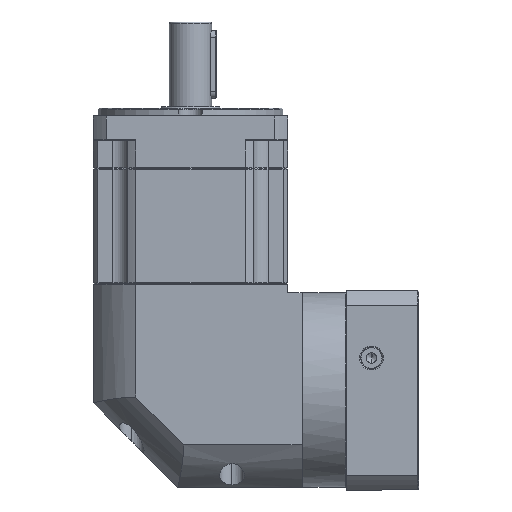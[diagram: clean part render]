
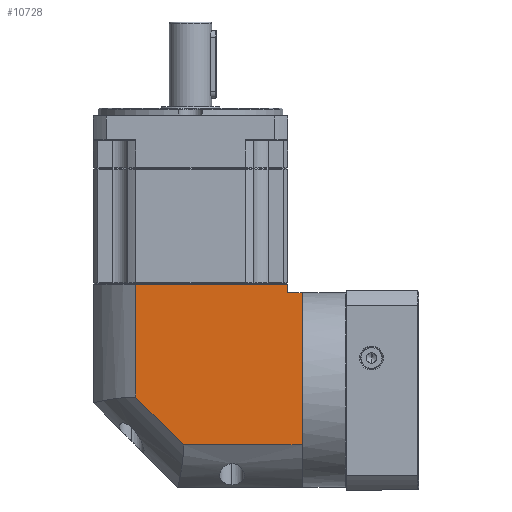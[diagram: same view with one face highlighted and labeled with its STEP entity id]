
A CAD part, left-side view. The second image highlights one B-rep face of the part: STEP entity #10728.
In plain terms, the highlighted planar face has unit normal (-1, 0, 0).
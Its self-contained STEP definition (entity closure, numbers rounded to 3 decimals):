
#1624 = VECTOR ( 'NONE', #172743, 1000. ) ;
#3517 = ORIENTED_EDGE ( 'NONE', *, *, #125772, .T. ) ;
#5126 = CARTESIAN_POINT ( 'NONE',  ( -280.587, -62.371, 68.532 ) ) ;
#5699 = CARTESIAN_POINT ( 'NONE',  ( -280.587, 52.629, 68.532 ) ) ;
#7049 = CARTESIAN_POINT ( 'NONE',  ( -280.587, 52.629, -26.368 ) ) ;
#10700 = ORIENTED_EDGE ( 'NONE', *, *, #75522, .F. ) ;
#10728 = ADVANCED_FACE ( 'NONE', ( #84040 ), #169360, .F. ) ;
#12910 = CARTESIAN_POINT ( 'NONE',  ( -280.587, 27.528, 68.532 ) ) ;
#18062 = VERTEX_POINT ( 'NONE', #143636 ) ;
#23631 = VECTOR ( 'NONE', #170392, 1000. ) ;
#24338 = DIRECTION ( 'NONE',  ( 0., 0.707, 0.707 ) ) ;
#25377 = EDGE_LOOP ( 'NONE', ( #47236, #127564, #60154, #10700, #3517, #146875, #76817 ) ) ;
#27848 = LINE ( 'NONE', #129914, #23631 ) ;
#34417 = LINE ( 'NONE', #138639, #172852 ) ;
#37192 = LINE ( 'NONE', #105397, #1624 ) ;
#40238 = CARTESIAN_POINT ( 'NONE',  ( -280.587, -62.371, 63.532 ) ) ;
#45158 = VECTOR ( 'NONE', #94236, 1000. ) ;
#47236 = ORIENTED_EDGE ( 'NONE', *, *, #164427, .F. ) ;
#49143 = CARTESIAN_POINT ( 'NONE',  ( -280.587, 52.629, 75.032 ) ) ;
#60154 = ORIENTED_EDGE ( 'NONE', *, *, #128578, .F. ) ;
#62644 = DIRECTION ( 'NONE',  ( 0., 1., 0. ) ) ;
#71816 = LINE ( 'NONE', #171410, #107557 ) ;
#75522 = EDGE_CURVE ( 'NONE', #158900, #110574, #34417, .T. ) ;
#76817 = ORIENTED_EDGE ( 'NONE', *, *, #121997, .F. ) ;
#78838 = VECTOR ( 'NONE', #166897, 1000. ) ;
#81551 = CARTESIAN_POINT ( 'NONE',  ( -280.587, -70.771, -26.368 ) ) ;
#83006 = LINE ( 'NONE', #5699, #78838 ) ;
#84040 = FACE_OUTER_BOUND ( 'NONE', #25377, .T. ) ;
#84472 = VERTEX_POINT ( 'NONE', #5126 ) ;
#86088 = DIRECTION ( 'NONE',  ( 0., 1., 0. ) ) ;
#94236 = DIRECTION ( 'NONE',  ( 0., 1., 0. ) ) ;
#99444 = DIRECTION ( 'NONE',  ( 0., 0., -1. ) ) ;
#104617 = LINE ( 'NONE', #7049, #171667 ) ;
#105397 = CARTESIAN_POINT ( 'NONE',  ( -280.587, -62.371, -51.468 ) ) ;
#107328 = CARTESIAN_POINT ( 'NONE',  ( -280.587, -62.371, 63.532 ) ) ;
#107557 = VECTOR ( 'NONE', #24338, 1000. ) ;
#109029 = AXIS2_PLACEMENT_3D ( 'NONE', #49143, #142911, #62644 ) ;
#110574 = VERTEX_POINT ( 'NONE', #81551 ) ;
#121997 = EDGE_CURVE ( 'NONE', #147542, #84472, #83006, .T. ) ;
#125772 = EDGE_CURVE ( 'NONE', #158900, #167038, #152089, .T. ) ;
#127564 = ORIENTED_EDGE ( 'NONE', *, *, #147978, .F. ) ;
#128578 = EDGE_CURVE ( 'NONE', #110574, #151306, #104617, .T. ) ;
#129914 = CARTESIAN_POINT ( 'NONE',  ( -280.587, 27.528, 75.032 ) ) ;
#138639 = CARTESIAN_POINT ( 'NONE',  ( -280.587, -70.771, 75.032 ) ) ;
#142911 = DIRECTION ( 'NONE',  ( 1., 0., 0. ) ) ;
#143636 = CARTESIAN_POINT ( 'NONE',  ( -280.587, 27.528, 1.971 ) ) ;
#146875 = ORIENTED_EDGE ( 'NONE', *, *, #165951, .T. ) ;
#147542 = VERTEX_POINT ( 'NONE', #12910 ) ;
#147978 = EDGE_CURVE ( 'NONE', #151306, #18062, #71816, .T. ) ;
#151306 = VERTEX_POINT ( 'NONE', #158409 ) ;
#152089 = LINE ( 'NONE', #40238, #45158 ) ;
#158409 = CARTESIAN_POINT ( 'NONE',  ( -280.587, -0.81, -26.368 ) ) ;
#158900 = VERTEX_POINT ( 'NONE', #168304 ) ;
#164427 = EDGE_CURVE ( 'NONE', #18062, #147542, #27848, .T. ) ;
#165951 = EDGE_CURVE ( 'NONE', #167038, #84472, #37192, .T. ) ;
#166897 = DIRECTION ( 'NONE',  ( 0., -1., 0. ) ) ;
#167038 = VERTEX_POINT ( 'NONE', #107328 ) ;
#168304 = CARTESIAN_POINT ( 'NONE',  ( -280.587, -70.771, 63.532 ) ) ;
#169360 = PLANE ( 'NONE',  #109029 ) ;
#170392 = DIRECTION ( 'NONE',  ( 0., 0., 1. ) ) ;
#171410 = CARTESIAN_POINT ( 'NONE',  ( -280.587, -0.81, -26.368 ) ) ;
#171667 = VECTOR ( 'NONE', #86088, 1000. ) ;
#172743 = DIRECTION ( 'NONE',  ( 0., 0., 1. ) ) ;
#172852 = VECTOR ( 'NONE', #99444, 1000. ) ;
